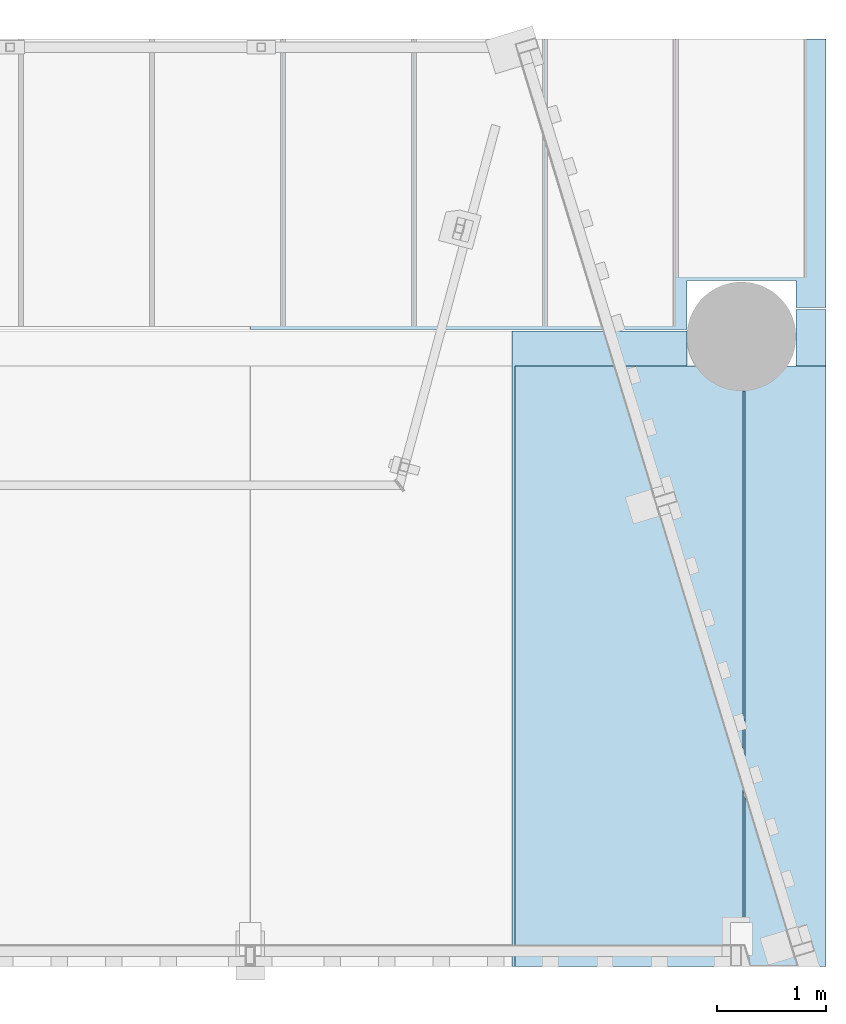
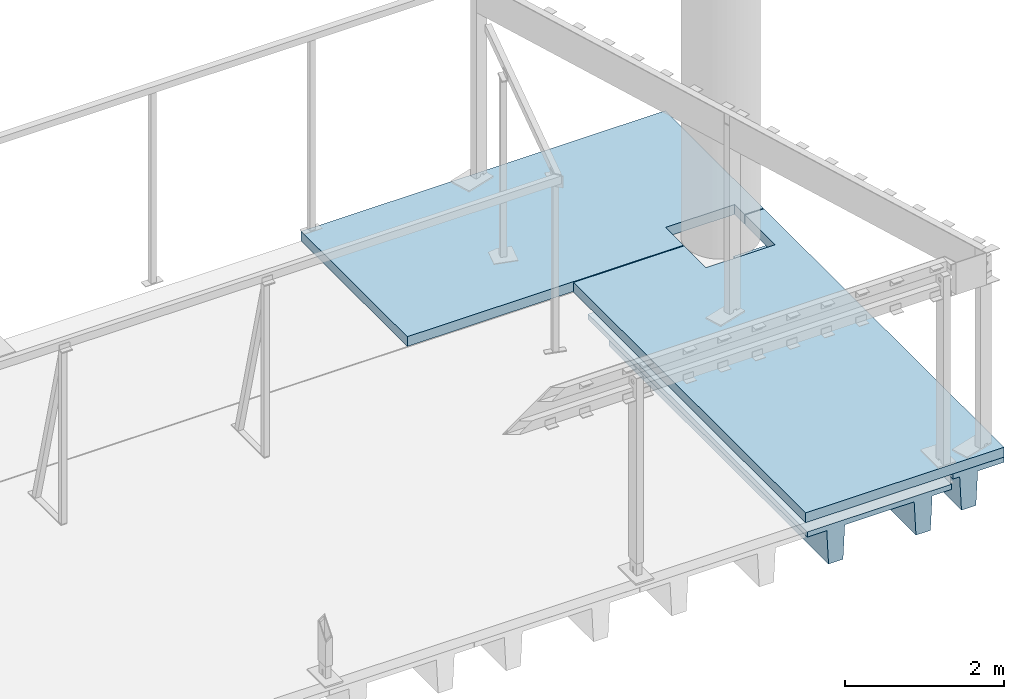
# One storey, part 18 of 19: 4 slabs.
"""IFC2X3 building model written with IfcOpenShell, lengths in millimetres."""

from ifc_helpers import new_model, entity, si_unit, converted_unit, derived_unit, direction, frame, origin_with_axes, place, context, subcontext, project, spatial, faceted_brep, type_object, element, save


model = new_model("IFC2X3")

# Units and contexts
model_context = context("Model", 3, precision=0.01, world=frame((0.0, 4.29681676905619e-09, 0.0)), true_north=direction((4.01073788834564e-13, 1.0)))
plan_context = context("Plan", 3, precision=0.01, world=frame((0.0, 4.29681676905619e-09, 0.0)), true_north=direction((4.01073788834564e-13, 1.0)))
body_context = subcontext(model_context, "Body", "Model", "MODEL_VIEW")
ifc_project = project(units=[converted_unit("PLANEANGLEUNIT", "DEGREE", entity("IfcPositiveLengthMeasure", 0.0174532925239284), si_unit("PLANEANGLEUNIT", "RADIAN"), dimensions=[0, 0, 0, 0, 0, 0, 0]), si_unit("AREAUNIT", "SQUARE_METRE"), si_unit("LENGTHUNIT", "METRE", prefix="MILLI"), si_unit("MASSUNIT", "GRAM", prefix="KILO"), si_unit("POWERUNIT", "WATT"), si_unit("PRESSUREUNIT", "PASCAL", prefix="KILO"), si_unit("FORCEUNIT", "NEWTON", prefix="KILO"), si_unit("ELECTRICVOLTAGEUNIT", "VOLT"), si_unit("ELECTRICCURRENTUNIT", "AMPERE"), si_unit("THERMODYNAMICTEMPERATUREUNIT", "DEGREE_CELSIUS"), si_unit("TIMEUNIT", "SECOND"), si_unit("VOLUMEUNIT", "CUBIC_METRE"), derived_unit("LINEARVELOCITYUNIT", [(si_unit("LENGTHUNIT", "METRE"), 1), (si_unit("TIMEUNIT", "SECOND"), -1)]), derived_unit("VOLUMETRICFLOWRATEUNIT", [(si_unit("VOLUMEUNIT", "CUBIC_METRE"), 1), (si_unit("TIMEUNIT", "SECOND"), -1)]), derived_unit("THERMALTRANSMITTANCEUNIT", [(si_unit("POWERUNIT", "WATT"), 1), (si_unit("THERMODYNAMICTEMPERATUREUNIT", "KELVIN"), -1), (si_unit("AREAUNIT", "SQUARE_METRE"), -1)]), derived_unit("SOUNDPRESSUREUNIT", [(si_unit("PRESSUREUNIT", "PASCAL"), 1)])], contexts=[model_context, plan_context])

# Site, building, storey
site_placement = place(None, frame((0.0, -4.29681676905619e-09, 0.0), z_axis=(0.0, 0.0, 1.0), x_axis=(1.0, 0.0, 0.0)))
site = spatial("IfcSite", under=ifc_project, at=site_placement, Name="Gardermoen", CompositionType="ELEMENT")
building_placement = place(site_placement, frame((0.0, 4.29681676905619e-09, 0.0), z_axis=(0.0, 0.0, 1.0), x_axis=(1.0, 0.0, 0.0)))
building = spatial("IfcBuilding", under=site, at=building_placement, Name="TI", CompositionType="ELEMENT")
storey_placement = place(building_placement, origin_with_axes())
storey = spatial("IfcBuildingStorey", under=building, at=storey_placement, Name="F", CompositionType="ELEMENT", Elevation=0.0)

# Slabs
slab_type_1 = type_object("IfcSlabType", Name="TT600*2394-210-80-1266-0.05-0-0", PredefinedType="NOTDEFINED")
slab_1_placement = place(storey_placement, frame((599969.99, 575230.0, 210230.0), z_axis=(0.0, 0.0, 1.0), x_axis=(0.0, -1.0, 0.0)))
element("IfcSlab", 1, at=slab_1_placement, inside=storey, type_object=slab_type_1, Name="DT", ObjectType="TT600*2394-210-80-1266-0.05-0-0", PredefinedType="FLOOR", context=body_context, shape_type="Brep", body=[
    faceted_brep([(5500.00186890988, -764.0, 220.0), (5500.00186890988, -738.0, -300.0), (0.0, -738.0, -300.0), (0.0, -764.0, 220.0), (5500.00186890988, -528.0, -300.0), (0.0, -528.0, -300.0), (5500.00186890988, -502.0, 220.0), (0.0, -502.0, 220.0), (5500.00186890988, 502.0, 220.0), (0.0, 502.0, 220.0), (5500.00186890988, 528.0, -300.0), (0.0, 528.0, -300.0), (5500.00186890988, 738.0, -300.0), (0.0, 738.0, -300.0), (5500.00186890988, 764.0, 220.0), (0.0, 764.0, 220.0), (5500.00186890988, 1045.00030920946, 220.0), (0.0, 1045.00030920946, 220.0), (5500.00186890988, 1045.00030920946, 300.0), (0.0, 1045.00030920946, 300.0), (5500.00186890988, -1044.99602868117, 220.0), (0.0, -1044.99602868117, 220.0), (0.0, -1044.99602868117, 300.0), (5500.00186890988, -1044.99602868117, 300.0)], [[[0, 1, 2, 3]], [[1, 4, 5, 2]], [[4, 6, 7, 5]], [[6, 8, 9, 7]], [[8, 10, 11, 9]], [[10, 12, 13, 11]], [[12, 14, 15, 13]], [[14, 16, 17, 15]], [[16, 18, 19, 17]], [[20, 0, 3, 21]], [[22, 21, 3, 2, 5, 7, 9, 11, 13, 15, 17, 19]], [[18, 23, 22, 19]], [[23, 20, 21, 22]], [[20, 23, 18, 16, 14, 12, 10, 8, 6, 4, 1, 0]]], orient=[[False], [False], [False], [False], [False], [False], [False], [False], [False], [False], [False], [False], [False], [False]]),
])
slab_2_placement = place(storey_placement, frame((601894.99, 575230.0, 210380.0), z_axis=(0.0, 0.0, 1.0), x_axis=(0.0, -1.0, 0.0)))
element("IfcSlab", 2, at=slab_2_placement, inside=storey, type_object=slab_type_1, Name="DT", ObjectType="TT600*2394-210-80-1266-0.05-0-0", PredefinedType="FLOOR", context=body_context, shape_type="Brep", body=[
    faceted_brep([(5500.00186890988, -764.0, 220.0), (5500.00186890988, -738.0, -300.0), (0.0, -738.0, -300.0), (0.0, -764.0, 220.0), (5500.00186890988, -528.0, -300.0), (0.0, -528.0, -300.0), (5500.00186890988, -502.0, 220.0), (0.0, -502.0, 220.0), (5500.00186890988, -122.052371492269, 220.0), (0.0, -122.052371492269, 220.0), (5500.00186890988, -863.996577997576, 220.0), (0.0, -863.996577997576, 220.0), (0.0, -122.052371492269, 300.0), (0.0, -863.996577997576, 300.0), (5500.00186890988, -122.052371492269, 300.0), (5500.00186890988, -863.996577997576, 300.0)], [[[0, 1, 2, 3]], [[1, 4, 5, 2]], [[4, 6, 7, 5]], [[6, 8, 9, 7]], [[10, 0, 3, 11]], [[9, 12, 13, 11, 3, 2, 5, 7]], [[12, 14, 15, 13]], [[15, 10, 11, 13]], [[14, 12, 9, 8]], [[8, 6, 4, 1, 0, 10, 15, 14]]], orient=[[False], [False], [False], [False], [False], [False], [False], [False], [False], [False]]),
])
slab_type_2 = type_object("IfcSlabType", Name="150*12435", PredefinedType="NOTDEFINED")
slab_3_placement = place(storey_placement, frame((596500.002912, 575565.00011, 210755.0), z_axis=(0.0, 1.0, 0.0), x_axis=(1.0, 0.0, 0.0)))
element("IfcSlab", 3, at=slab_3_placement, inside=storey, type_object=slab_type_2, Name="PÅSTØP", ObjectType="150*12435", PredefinedType="FLOOR", context=body_context, shape_type="Brep", body=[
    faceted_brep([(5272.93471650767, -75.0, 200.001317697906), (5272.93471650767, 75.0, 200.001317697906), (5000.01708983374, 75.0, 200.000717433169), (5000.01708983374, -75.0, 200.000717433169), (5000.01708982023, 75.0, 450.002624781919), (5000.01708982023, -75.0, 450.002624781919), (4000.01684567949, 75.0, 450.002075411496), (4000.01684567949, -75.0, 450.002075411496), (4000.01708984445, 75.0, 5.41331246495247e-08), (4000.01708984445, -75.0, 5.41331246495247e-08), (0.0, 75.0, -6.99365045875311e-08), (1.16415321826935e-10, -75.0, 1.16415321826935e-10), (-0.00145760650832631, 75.0, 2662.49988999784), (-0.00145760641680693, -75.0, 2662.49988999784), (5272.93471650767, 74.9999999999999, 2662.49988999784), (5272.93471650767, -75.0, 2662.49988999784)], [[[0, 1, 2, 3]], [[2, 4, 5, 3]], [[4, 6, 7, 5]], [[6, 8, 9, 7]], [[8, 10, 11, 9]], [[12, 13, 11, 10]], [[1, 14, 12, 10, 8, 6, 4, 2]], [[13, 15, 0, 3, 5, 7, 9, 11]], [[14, 1, 0, 15]], [[15, 13, 12, 14]]], orient=[[False], [False], [False], [False], [False], [False], [False], [False], [False], [False]]),
])
slab_type_3 = type_object("IfcSlabType", Name="150*15250", PredefinedType="NOTDEFINED")
slab_4_placement = place(storey_placement, frame((598899.995041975, 560500.004337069, 210755.0), z_axis=(0.0, 1.0, 0.0), x_axis=(1.0, 0.0, 0.0)))
element("IfcSlab", 4, at=slab_4_placement, inside=storey, type_object=slab_type_3, Name="PÅSTØP", ObjectType="150*15250", PredefinedType="FLOOR", context=body_context, shape_type="Brep", body=[
    faceted_brep([(2872.94258653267, 75.0, 15249.987867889), (2872.94258653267, -75.0, 15249.987867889), (2600.02343751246, -75.0, 15249.9873046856), (2600.02343751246, 75.0, 15249.9873046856), (2600.02343751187, 75.0, 14499.9960937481), (2600.02343751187, -75.0, 14499.9960937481), (1600.02355958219, 75.0, 14499.9960937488), (1600.02355958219, -75.0, 14499.9960937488), (1600.02343751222, 75.0, 15049.9951171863), (1600.02343751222, -75.0, 15049.9951171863), (0.0296833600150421, 75.0, 15049.99609375), (0.0296833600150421, -75.0, 15049.99609375), (0.0182044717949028, -75.0, 9229.99379402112), (0.0182044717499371, 75.0, 9229.99379402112), (2872.94258653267, -75.0, 9229.99379402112), (2872.94258653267, 74.9999999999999, 9229.99379402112)], [[[0, 1, 2, 3]], [[4, 3, 2, 5]], [[6, 4, 5, 7]], [[8, 6, 7, 9]], [[10, 8, 9, 11]], [[12, 13, 10, 11]], [[1, 14, 12, 11, 9, 7, 5, 2]], [[13, 15, 0, 3, 4, 6, 8, 10]], [[14, 1, 0, 15]], [[15, 13, 12, 14]]], orient=[[False], [False], [False], [False], [False], [False], [False], [False], [False], [False]]),
])

save(model, "model.ifc")
